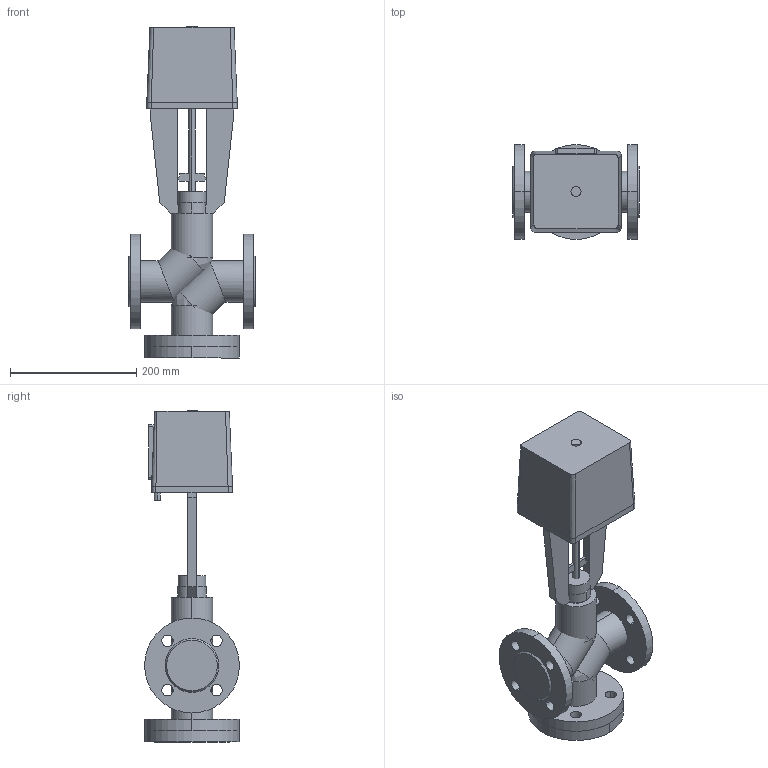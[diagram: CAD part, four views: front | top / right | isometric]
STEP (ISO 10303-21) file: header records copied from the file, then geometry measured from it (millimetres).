
FILE_DESCRIPTION(/* description */ (''),/* implementation_level */ '2;1');
FILE_NAME(/* name */ 'ТРК DN40 PN 2.5 МПа LEA 1200',/* time_stamp */ '2026-07-14T23:10:00+03:00',/* author */ (''),/* organization */ (''),/* preprocessor_version */ 'ST-DEVELOPER v20',/* originating_system */ '',/* authorisation */ '');
FILE_SCHEMA (('AP242_MANAGED_MODEL_BASED_3D_ENGINEERING_MIM_LF { 1 0 10303 442 1 1 4 }'));
Length unit declared in the file: millimetre
Products named in the file (14): TopLevelAssembly; Выдавливание; Модификатор; Модификатор_1; Выдавливание_
1; Выдавливание_
2; Вращение; Выдавливание_
3; Выдавливание_
4; 1600; Переход; Объемная геометрия 
присоединена; Полый Выдавливание; Объемная геометрия 
присоединена_1
Assembly tree (13 placements, depth 2):
  TopLevelAssembly
    Выдавливание
    Модификатор
    Модификатор_1
    Выдавливание_
1
    Выдавливание_
2
    Вращение
    Выдавливание_
3
    Выдавливание_
4
    1600
    Переход
    Объемная геометрия 
присоединена
    Полый Выдавливание
    Объемная геометрия 
присоединена_1
Bounding box: 200 x 150 x 525 mm (x, y, z)
Volume: 4881313.5 mm3; surface area: 499216.1 mm2
Topology: 18 solids, 18 shells, 159 faces, 366 edges, 240 vertices
Faces by surface type: plane 77, cylinder 70, bspline 8, cone 4
Entity records: 5155 total; most frequent: CARTESIAN_POINT 972, DIRECTION 882, ORIENTED_EDGE 716, EDGE_CURVE 358, AXIS2_PLACEMENT_3D 346, VERTEX_POINT 240, EDGE_LOOP 194, LINE 190
